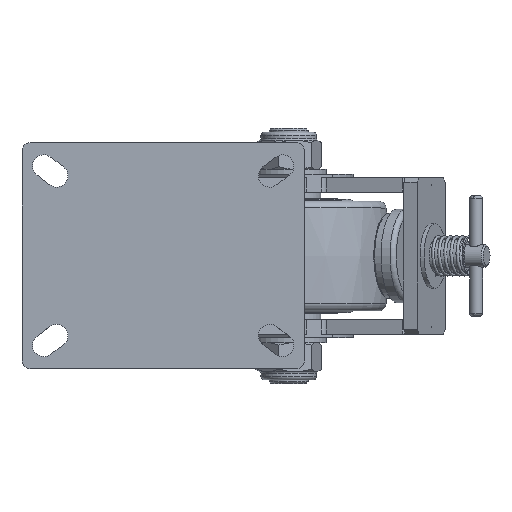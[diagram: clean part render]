
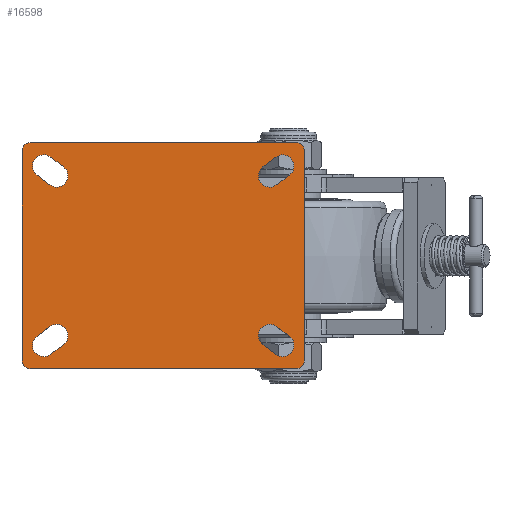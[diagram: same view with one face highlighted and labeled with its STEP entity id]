
A CAD part, top view. The second image highlights one B-rep face of the part: STEP entity #16598.
In plain terms, the highlighted planar face has unit normal (0, 0, 1).
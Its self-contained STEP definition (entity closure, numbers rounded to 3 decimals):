
#15559=CARTESIAN_POINT('',(-82.5,-70.,36.825));
#15560=VERTEX_POINT('',#15559);
#15561=CARTESIAN_POINT('',(-87.5,-65.,36.825));
#15562=VERTEX_POINT('',#15561);
#15563=CARTESIAN_POINT('',(-82.5,-65.,36.825));
#15564=DIRECTION('',(0.0,0.0,-1.));
#15565=DIRECTION('',(-0.707,-0.707,0.0));
#15566=AXIS2_PLACEMENT_3D('',#15563,#15564,#15565);
#15567=CIRCLE('',#15566,5.);
#15568=EDGE_CURVE('',#15560,#15562,#15567,.T.);
#15741=CARTESIAN_POINT('',(-87.5,65.,36.825));
#15742=VERTEX_POINT('',#15741);
#15743=CARTESIAN_POINT('',(-87.5,-65.,36.825));
#15744=DIRECTION('',(0.0,1.0,0.0));
#15745=VECTOR('',#15744,130.0);
#15746=LINE('',#15743,#15745);
#15747=EDGE_CURVE('',#15562,#15742,#15746,.T.);
#15764=CARTESIAN_POINT('',(-82.5,70.,36.825));
#15765=VERTEX_POINT('',#15764);
#15766=CARTESIAN_POINT('',(-82.5,65.,36.825));
#15767=DIRECTION('',(0.0,0.0,-1.));
#15768=DIRECTION('',(-0.707,0.707,0.0));
#15769=AXIS2_PLACEMENT_3D('',#15766,#15767,#15768);
#15770=CIRCLE('',#15769,5.);
#15771=EDGE_CURVE('',#15742,#15765,#15770,.T.);
#15789=CARTESIAN_POINT('',(82.5,70.,36.825));
#15790=VERTEX_POINT('',#15789);
#15791=CARTESIAN_POINT('',(87.5,65.,36.825));
#15792=VERTEX_POINT('',#15791);
#15793=CARTESIAN_POINT('',(82.5,65.,36.825));
#15794=DIRECTION('',(0.0,0.0,-1.));
#15795=DIRECTION('',(0.707,0.707,0.0));
#15796=AXIS2_PLACEMENT_3D('',#15793,#15794,#15795);
#15797=CIRCLE('',#15796,5.);
#15798=EDGE_CURVE('',#15790,#15792,#15797,.T.);
#15979=CARTESIAN_POINT('',(87.5,-65.,36.825));
#15980=VERTEX_POINT('',#15979);
#15981=CARTESIAN_POINT('',(87.5,65.,36.825));
#15982=DIRECTION('',(0.0,-1.0,0.0));
#15983=VECTOR('',#15982,130.);
#15984=LINE('',#15981,#15983);
#15985=EDGE_CURVE('',#15792,#15980,#15984,.T.);
#16002=CARTESIAN_POINT('',(82.5,-70.,36.825));
#16003=VERTEX_POINT('',#16002);
#16004=CARTESIAN_POINT('',(82.5,-65.,36.825));
#16005=DIRECTION('',(0.0,0.0,-1.));
#16006=DIRECTION('',(0.707,-0.707,0.0));
#16007=AXIS2_PLACEMENT_3D('',#16004,#16005,#16006);
#16008=CIRCLE('',#16007,5.);
#16009=EDGE_CURVE('',#15980,#16003,#16008,.T.);
#16137=CARTESIAN_POINT('',(-82.5,70.,36.825));
#16138=DIRECTION('',(1.0,0.0,0.0));
#16139=VECTOR('',#16138,165.0);
#16140=LINE('',#16137,#16139);
#16141=EDGE_CURVE('',#15765,#15790,#16140,.T.);
#16158=CARTESIAN_POINT('',(82.5,-70.,36.825));
#16159=DIRECTION('',(-1.0,0.0,0.0));
#16160=VECTOR('',#16159,165.);
#16161=LINE('',#16158,#16160);
#16162=EDGE_CURVE('',#16003,#15560,#16161,.T.);
#16172=CARTESIAN_POINT('',(-70.2,43.9,36.825));
#16173=VERTEX_POINT('',#16172);
#16174=CARTESIAN_POINT('',(-61.8,55.1,36.825));
#16175=VERTEX_POINT('',#16174);
#16176=CARTESIAN_POINT('',(-66.,49.5,36.825));
#16177=DIRECTION('',(0.0,0.0,1.0));
#16178=DIRECTION('',(1.0,0.0,0.0));
#16179=AXIS2_PLACEMENT_3D('',#16176,#16177,#16178);
#16180=CIRCLE('',#16179,7.);
#16181=EDGE_CURVE('',#16173,#16175,#16180,.T.);
#16204=CARTESIAN_POINT('',(-69.8,61.1,36.825));
#16205=VERTEX_POINT('',#16204);
#16206=CARTESIAN_POINT('',(-61.8,55.1,36.825));
#16207=DIRECTION('',(-0.8,0.6,0.0));
#16208=VECTOR('',#16207,10.);
#16209=LINE('',#16206,#16208);
#16210=EDGE_CURVE('',#16175,#16205,#16209,.T.);
#16228=CARTESIAN_POINT('',(-78.2,49.9,36.825));
#16229=VERTEX_POINT('',#16228);
#16230=CARTESIAN_POINT('',(-74.,55.5,36.825));
#16231=DIRECTION('',(0.0,0.0,1.0));
#16232=DIRECTION('',(1.0,0.0,0.0));
#16233=AXIS2_PLACEMENT_3D('',#16230,#16231,#16232);
#16234=CIRCLE('',#16233,7.);
#16235=EDGE_CURVE('',#16205,#16229,#16234,.T.);
#16253=CARTESIAN_POINT('',(-78.2,49.9,36.825));
#16254=DIRECTION('',(0.8,-0.6,0.0));
#16255=VECTOR('',#16254,10.);
#16256=LINE('',#16253,#16255);
#16257=EDGE_CURVE('',#16229,#16173,#16256,.T.);
#16270=CARTESIAN_POINT('',(-78.2,-49.9,36.825));
#16271=VERTEX_POINT('',#16270);
#16272=CARTESIAN_POINT('',(-69.8,-61.1,36.825));
#16273=VERTEX_POINT('',#16272);
#16274=CARTESIAN_POINT('',(-74.,-55.5,36.825));
#16275=DIRECTION('',(0.0,0.0,1.0));
#16276=DIRECTION('',(1.0,0.0,0.0));
#16277=AXIS2_PLACEMENT_3D('',#16274,#16275,#16276);
#16278=CIRCLE('',#16277,7.);
#16279=EDGE_CURVE('',#16271,#16273,#16278,.T.);
#16302=CARTESIAN_POINT('',(-61.8,-55.1,36.825));
#16303=VERTEX_POINT('',#16302);
#16304=CARTESIAN_POINT('',(-69.8,-61.1,36.825));
#16305=DIRECTION('',(0.8,0.6,0.0));
#16306=VECTOR('',#16305,10.0);
#16307=LINE('',#16304,#16306);
#16308=EDGE_CURVE('',#16273,#16303,#16307,.T.);
#16326=CARTESIAN_POINT('',(-70.2,-43.9,36.825));
#16327=VERTEX_POINT('',#16326);
#16328=CARTESIAN_POINT('',(-66.,-49.5,36.825));
#16329=DIRECTION('',(0.0,0.0,1.0));
#16330=DIRECTION('',(1.0,0.0,0.0));
#16331=AXIS2_PLACEMENT_3D('',#16328,#16329,#16330);
#16332=CIRCLE('',#16331,7.);
#16333=EDGE_CURVE('',#16303,#16327,#16332,.T.);
#16351=CARTESIAN_POINT('',(-70.2,-43.9,36.825));
#16352=DIRECTION('',(-0.8,-0.6,0.0));
#16353=VECTOR('',#16352,10.);
#16354=LINE('',#16351,#16353);
#16355=EDGE_CURVE('',#16327,#16271,#16354,.T.);
#16368=CARTESIAN_POINT('',(70.2,-43.9,36.825));
#16369=VERTEX_POINT('',#16368);
#16370=CARTESIAN_POINT('',(61.8,-55.1,36.825));
#16371=VERTEX_POINT('',#16370);
#16372=CARTESIAN_POINT('',(66.,-49.5,36.825));
#16373=DIRECTION('',(0.0,0.0,1.0));
#16374=DIRECTION('',(1.0,0.0,0.0));
#16375=AXIS2_PLACEMENT_3D('',#16372,#16373,#16374);
#16376=CIRCLE('',#16375,7.);
#16377=EDGE_CURVE('',#16369,#16371,#16376,.T.);
#16400=CARTESIAN_POINT('',(69.8,-61.1,36.825));
#16401=VERTEX_POINT('',#16400);
#16402=CARTESIAN_POINT('',(61.8,-55.1,36.825));
#16403=DIRECTION('',(0.8,-0.6,0.0));
#16404=VECTOR('',#16403,10.0);
#16405=LINE('',#16402,#16404);
#16406=EDGE_CURVE('',#16371,#16401,#16405,.T.);
#16424=CARTESIAN_POINT('',(78.2,-49.9,36.825));
#16425=VERTEX_POINT('',#16424);
#16426=CARTESIAN_POINT('',(74.,-55.5,36.825));
#16427=DIRECTION('',(0.0,0.0,1.0));
#16428=DIRECTION('',(1.0,0.0,0.0));
#16429=AXIS2_PLACEMENT_3D('',#16426,#16427,#16428);
#16430=CIRCLE('',#16429,7.);
#16431=EDGE_CURVE('',#16401,#16425,#16430,.T.);
#16449=CARTESIAN_POINT('',(78.2,-49.9,36.825));
#16450=DIRECTION('',(-0.8,0.6,0.0));
#16451=VECTOR('',#16450,10.);
#16452=LINE('',#16449,#16451);
#16453=EDGE_CURVE('',#16425,#16369,#16452,.T.);
#16466=CARTESIAN_POINT('',(78.2,49.9,36.825));
#16467=VERTEX_POINT('',#16466);
#16468=CARTESIAN_POINT('',(69.8,61.1,36.825));
#16469=VERTEX_POINT('',#16468);
#16470=CARTESIAN_POINT('',(74.,55.5,36.825));
#16471=DIRECTION('',(0.0,0.0,1.0));
#16472=DIRECTION('',(1.0,0.0,0.0));
#16473=AXIS2_PLACEMENT_3D('',#16470,#16471,#16472);
#16474=CIRCLE('',#16473,7.);
#16475=EDGE_CURVE('',#16467,#16469,#16474,.T.);
#16498=CARTESIAN_POINT('',(61.8,55.1,36.825));
#16499=VERTEX_POINT('',#16498);
#16500=CARTESIAN_POINT('',(69.8,61.1,36.825));
#16501=DIRECTION('',(-0.8,-0.6,0.0));
#16502=VECTOR('',#16501,10.);
#16503=LINE('',#16500,#16502);
#16504=EDGE_CURVE('',#16469,#16499,#16503,.T.);
#16522=CARTESIAN_POINT('',(70.2,43.9,36.825));
#16523=VERTEX_POINT('',#16522);
#16524=CARTESIAN_POINT('',(66.,49.5,36.825));
#16525=DIRECTION('',(0.0,0.0,1.0));
#16526=DIRECTION('',(1.0,0.0,0.0));
#16527=AXIS2_PLACEMENT_3D('',#16524,#16525,#16526);
#16528=CIRCLE('',#16527,7.);
#16529=EDGE_CURVE('',#16499,#16523,#16528,.T.);
#16547=CARTESIAN_POINT('',(70.2,43.9,36.825));
#16548=DIRECTION('',(0.8,0.6,0.0));
#16549=VECTOR('',#16548,10.);
#16550=LINE('',#16547,#16549);
#16551=EDGE_CURVE('',#16523,#16467,#16550,.T.);
#16559=CARTESIAN_POINT('',(-70.2,43.9,36.825));
#16560=DIRECTION('',(0.0,0.0,1.0));
#16561=DIRECTION('',(1.0,0.0,0.0));
#16562=AXIS2_PLACEMENT_3D('',#16559,#16560,#16561);
#16563=PLANE('',#16562);
#16564=ORIENTED_EDGE('',*,*,#15568,.F.);
#16565=ORIENTED_EDGE('',*,*,#16162,.F.);
#16566=ORIENTED_EDGE('',*,*,#16009,.F.);
#16567=ORIENTED_EDGE('',*,*,#15985,.F.);
#16568=ORIENTED_EDGE('',*,*,#15798,.F.);
#16569=ORIENTED_EDGE('',*,*,#16141,.F.);
#16570=ORIENTED_EDGE('',*,*,#15771,.F.);
#16571=ORIENTED_EDGE('',*,*,#15747,.F.);
#16572=EDGE_LOOP('',(#16564,#16565,#16566,#16567,#16568,#16569,#16570,#16571));
#16573=FACE_OUTER_BOUND('',#16572,.T.);
#16574=ORIENTED_EDGE('',*,*,#16475,.F.);
#16575=ORIENTED_EDGE('',*,*,#16551,.F.);
#16576=ORIENTED_EDGE('',*,*,#16529,.F.);
#16577=ORIENTED_EDGE('',*,*,#16504,.F.);
#16578=EDGE_LOOP('',(#16574,#16575,#16576,#16577));
#16579=FACE_BOUND('',#16578,.T.);
#16580=ORIENTED_EDGE('',*,*,#16377,.F.);
#16581=ORIENTED_EDGE('',*,*,#16453,.F.);
#16582=ORIENTED_EDGE('',*,*,#16431,.F.);
#16583=ORIENTED_EDGE('',*,*,#16406,.F.);
#16584=EDGE_LOOP('',(#16580,#16581,#16582,#16583));
#16585=FACE_BOUND('',#16584,.T.);
#16586=ORIENTED_EDGE('',*,*,#16279,.F.);
#16587=ORIENTED_EDGE('',*,*,#16355,.F.);
#16588=ORIENTED_EDGE('',*,*,#16333,.F.);
#16589=ORIENTED_EDGE('',*,*,#16308,.F.);
#16590=EDGE_LOOP('',(#16586,#16587,#16588,#16589));
#16591=FACE_BOUND('',#16590,.T.);
#16592=ORIENTED_EDGE('',*,*,#16181,.F.);
#16593=ORIENTED_EDGE('',*,*,#16257,.F.);
#16594=ORIENTED_EDGE('',*,*,#16235,.F.);
#16595=ORIENTED_EDGE('',*,*,#16210,.F.);
#16596=EDGE_LOOP('',(#16592,#16593,#16594,#16595));
#16597=FACE_BOUND('',#16596,.T.);
#16598=ADVANCED_FACE('',(#16573,#16579,#16585,#16591,#16597),#16563,.T.);
